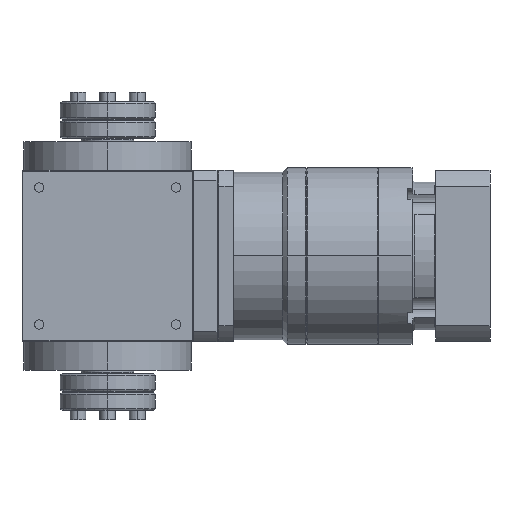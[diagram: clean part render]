
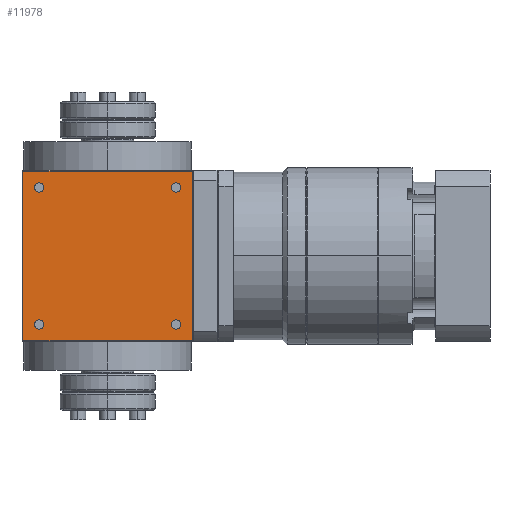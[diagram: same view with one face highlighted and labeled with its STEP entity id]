
A CAD part, left-side view. The second image highlights one B-rep face of the part: STEP entity #11978.
In plain terms, the highlighted planar face has unit normal (-1, 0, 0).
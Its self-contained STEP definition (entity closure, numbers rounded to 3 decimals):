
#14 = CARTESIAN_POINT ( 'NONE',  ( -45., -36., 36. ) ) ;
#107 = EDGE_CURVE ( 'NONE', #2366, #15077, #12797, .T. ) ;
#149 = VECTOR ( 'NONE', #11417, 1000. ) ;
#232 = EDGE_LOOP ( 'NONE', ( #3106, #15432 ) ) ;
#250 = ORIENTED_EDGE ( 'NONE', *, *, #19705, .T. ) ;
#433 = EDGE_LOOP ( 'NONE', ( #17540, #12530, #250, #10421 ) ) ;
#867 = CARTESIAN_POINT ( 'NONE',  ( -45., 45., -45. ) ) ;
#1348 = CARTESIAN_POINT ( 'NONE',  ( -45., 44.5, -45. ) ) ;
#1382 = ORIENTED_EDGE ( 'NONE', *, *, #17131, .T. ) ;
#1439 = DIRECTION ( 'NONE',  ( 0., 0., -1. ) ) ;
#1566 = CIRCLE ( 'NONE', #10759, 2.5 ) ;
#1709 = CARTESIAN_POINT ( 'NONE',  ( -45., 36., -38.5 ) ) ;
#1844 = CIRCLE ( 'NONE', #3540, 2.5 ) ;
#1862 = AXIS2_PLACEMENT_3D ( 'NONE', #6836, #19761, #11416 ) ;
#2129 = ORIENTED_EDGE ( 'NONE', *, *, #3294, .T. ) ;
#2366 = VERTEX_POINT ( 'NONE', #20879 ) ;
#2444 = FACE_BOUND ( 'NONE', #7073, .T. ) ;
#2632 = CARTESIAN_POINT ( 'NONE',  ( -45., -36., -36. ) ) ;
#2755 = DIRECTION ( 'NONE',  ( 0., 0., 1. ) ) ;
#2827 = DIRECTION ( 'NONE',  ( 0., 0., 1. ) ) ;
#3106 = ORIENTED_EDGE ( 'NONE', *, *, #3564, .T. ) ;
#3294 = EDGE_CURVE ( 'NONE', #9365, #9633, #7698, .T. ) ;
#3540 = AXIS2_PLACEMENT_3D ( 'NONE', #2632, #6038, #15762 ) ;
#3564 = EDGE_CURVE ( 'NONE', #19639, #6226, #1566, .T. ) ;
#3704 = AXIS2_PLACEMENT_3D ( 'NONE', #20196, #5785, #10553 ) ;
#4116 = EDGE_CURVE ( 'NONE', #12982, #4448, #6323, .T. ) ;
#4151 = CARTESIAN_POINT ( 'NONE',  ( -45., -36., -38.5 ) ) ;
#4448 = VERTEX_POINT ( 'NONE', #6416 ) ;
#4702 = AXIS2_PLACEMENT_3D ( 'NONE', #19980, #19663, #18479 ) ;
#5060 = EDGE_CURVE ( 'NONE', #18351, #16039, #11717, .T. ) ;
#5785 = DIRECTION ( 'NONE',  ( 1., 0., 0. ) ) ;
#6038 = DIRECTION ( 'NONE',  ( 1., 0., 0. ) ) ;
#6226 = VERTEX_POINT ( 'NONE', #4151 ) ;
#6263 = DIRECTION ( 'NONE',  ( 0., 0., 1. ) ) ;
#6323 = CIRCLE ( 'NONE', #9368, 2.5 ) ;
#6416 = CARTESIAN_POINT ( 'NONE',  ( -45., 36., 33.5 ) ) ;
#6744 = CARTESIAN_POINT ( 'NONE',  ( -45., 45., -44.5 ) ) ;
#6836 = CARTESIAN_POINT ( 'NONE',  ( -45., 36., -36. ) ) ;
#7073 = EDGE_LOOP ( 'NONE', ( #12069, #1382 ) ) ;
#7148 = EDGE_CURVE ( 'NONE', #10961, #11919, #13352, .T. ) ;
#7601 = CARTESIAN_POINT ( 'NONE',  ( -45., -36., -33.5 ) ) ;
#7698 = CIRCLE ( 'NONE', #19544, 2.5 ) ;
#8017 = ORIENTED_EDGE ( 'NONE', *, *, #7148, .T. ) ;
#8269 = DIRECTION ( 'NONE',  ( 0., 0., 1. ) ) ;
#8417 = CARTESIAN_POINT ( 'NONE',  ( -45., 36., -33.5 ) ) ;
#8735 = FACE_BOUND ( 'NONE', #232, .T. ) ;
#8770 = CIRCLE ( 'NONE', #4702, 2.5 ) ;
#8978 = EDGE_CURVE ( 'NONE', #6226, #19639, #1844, .T. ) ;
#9151 = PLANE ( 'NONE',  #16510 ) ;
#9225 = CARTESIAN_POINT ( 'NONE',  ( -45., 36., 36. ) ) ;
#9365 = VERTEX_POINT ( 'NONE', #14463 ) ;
#9368 = AXIS2_PLACEMENT_3D ( 'NONE', #9225, #15781, #6263 ) ;
#9633 = VERTEX_POINT ( 'NONE', #12531 ) ;
#9756 = VECTOR ( 'NONE', #19562, 1000. ) ;
#10069 = LINE ( 'NONE', #16400, #12510 ) ;
#10421 = ORIENTED_EDGE ( 'NONE', *, *, #5060, .T. ) ;
#10553 = DIRECTION ( 'NONE',  ( 0., 0., 1. ) ) ;
#10759 = AXIS2_PLACEMENT_3D ( 'NONE', #10897, #17339, #2827 ) ;
#10897 = CARTESIAN_POINT ( 'NONE',  ( -45., -36., -36. ) ) ;
#10961 = VERTEX_POINT ( 'NONE', #1709 ) ;
#11302 = VECTOR ( 'NONE', #1439, 1000. ) ;
#11416 = DIRECTION ( 'NONE',  ( 0., 0., 1. ) ) ;
#11417 = DIRECTION ( 'NONE',  ( 0., 1., 0. ) ) ;
#11717 = LINE ( 'NONE', #6744, #9756 ) ;
#11833 = CARTESIAN_POINT ( 'NONE',  ( -45., 44.5, -44.5 ) ) ;
#11919 = VERTEX_POINT ( 'NONE', #8417 ) ;
#11978 = ADVANCED_FACE ( 'NONE', ( #20169, #2444, #15371, #8735, #17177 ), #9151, .T. ) ;
#12069 = ORIENTED_EDGE ( 'NONE', *, *, #4116, .T. ) ;
#12135 = ORIENTED_EDGE ( 'NONE', *, *, #19783, .T. ) ;
#12220 = DIRECTION ( 'NONE',  ( -1., 0., 0. ) ) ;
#12510 = VECTOR ( 'NONE', #8269, 1000. ) ;
#12530 = ORIENTED_EDGE ( 'NONE', *, *, #107, .T. ) ;
#12531 = CARTESIAN_POINT ( 'NONE',  ( -45., -36., 33.5 ) ) ;
#12626 = EDGE_CURVE ( 'NONE', #11919, #10961, #17910, .T. ) ;
#12756 = ORIENTED_EDGE ( 'NONE', *, *, #12626, .T. ) ;
#12797 = LINE ( 'NONE', #12903, #149 ) ;
#12903 = CARTESIAN_POINT ( 'NONE',  ( -45., 45., 44.5 ) ) ;
#12911 = DIRECTION ( 'NONE',  ( 0., 0., 1. ) ) ;
#12982 = VERTEX_POINT ( 'NONE', #13596 ) ;
#13182 = EDGE_LOOP ( 'NONE', ( #2129, #12135 ) ) ;
#13352 = CIRCLE ( 'NONE', #1862, 2.5 ) ;
#13596 = CARTESIAN_POINT ( 'NONE',  ( -45., 36., 38.5 ) ) ;
#14349 = CIRCLE ( 'NONE', #15010, 2.5 ) ;
#14384 = LINE ( 'NONE', #1348, #11302 ) ;
#14463 = CARTESIAN_POINT ( 'NONE',  ( -45., -36., 38.5 ) ) ;
#15010 = AXIS2_PLACEMENT_3D ( 'NONE', #15749, #20753, #12911 ) ;
#15077 = VERTEX_POINT ( 'NONE', #19368 ) ;
#15171 = DIRECTION ( 'NONE',  ( 0., 0., 1. ) ) ;
#15371 = FACE_BOUND ( 'NONE', #13182, .T. ) ;
#15432 = ORIENTED_EDGE ( 'NONE', *, *, #8978, .T. ) ;
#15749 = CARTESIAN_POINT ( 'NONE',  ( -45., -36., 36. ) ) ;
#15762 = DIRECTION ( 'NONE',  ( 0., 0., 1. ) ) ;
#15781 = DIRECTION ( 'NONE',  ( 1., 0., 0. ) ) ;
#16039 = VERTEX_POINT ( 'NONE', #17496 ) ;
#16333 = EDGE_LOOP ( 'NONE', ( #12756, #8017 ) ) ;
#16400 = CARTESIAN_POINT ( 'NONE',  ( -45., -44.5, -45. ) ) ;
#16510 = AXIS2_PLACEMENT_3D ( 'NONE', #867, #12220, #15171 ) ;
#17131 = EDGE_CURVE ( 'NONE', #4448, #12982, #8770, .T. ) ;
#17177 = FACE_BOUND ( 'NONE', #16333, .T. ) ;
#17339 = DIRECTION ( 'NONE',  ( 1., 0., 0. ) ) ;
#17496 = CARTESIAN_POINT ( 'NONE',  ( -45., -44.5, -44.5 ) ) ;
#17540 = ORIENTED_EDGE ( 'NONE', *, *, #17782, .T. ) ;
#17782 = EDGE_CURVE ( 'NONE', #16039, #2366, #10069, .T. ) ;
#17910 = CIRCLE ( 'NONE', #3704, 2.5 ) ;
#18351 = VERTEX_POINT ( 'NONE', #11833 ) ;
#18479 = DIRECTION ( 'NONE',  ( 0., 0., 1. ) ) ;
#19368 = CARTESIAN_POINT ( 'NONE',  ( -45., 44.5, 44.5 ) ) ;
#19385 = DIRECTION ( 'NONE',  ( 1., 0., 0. ) ) ;
#19544 = AXIS2_PLACEMENT_3D ( 'NONE', #14, #19385, #2755 ) ;
#19562 = DIRECTION ( 'NONE',  ( 0., -1., 0. ) ) ;
#19639 = VERTEX_POINT ( 'NONE', #7601 ) ;
#19663 = DIRECTION ( 'NONE',  ( 1., 0., 0. ) ) ;
#19705 = EDGE_CURVE ( 'NONE', #15077, #18351, #14384, .T. ) ;
#19761 = DIRECTION ( 'NONE',  ( 1., 0., 0. ) ) ;
#19783 = EDGE_CURVE ( 'NONE', #9633, #9365, #14349, .T. ) ;
#19980 = CARTESIAN_POINT ( 'NONE',  ( -45., 36., 36. ) ) ;
#20169 = FACE_OUTER_BOUND ( 'NONE', #433, .T. ) ;
#20196 = CARTESIAN_POINT ( 'NONE',  ( -45., 36., -36. ) ) ;
#20753 = DIRECTION ( 'NONE',  ( 1., 0., 0. ) ) ;
#20879 = CARTESIAN_POINT ( 'NONE',  ( -45., -44.5, 44.5 ) ) ;
